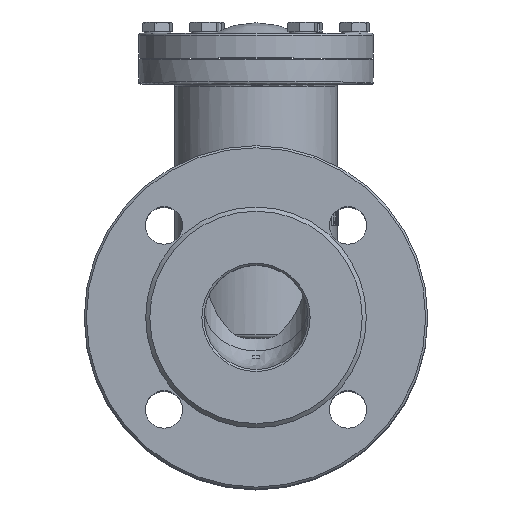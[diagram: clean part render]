
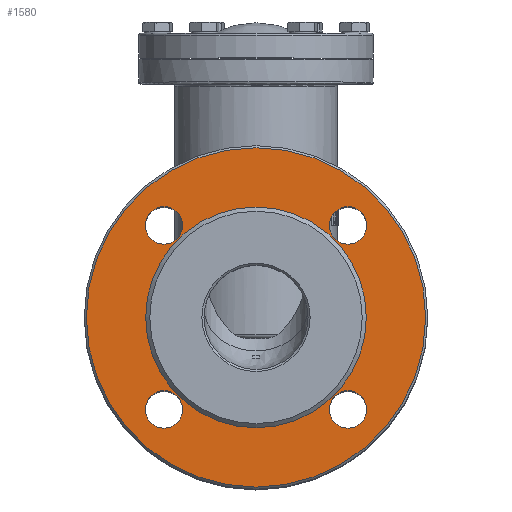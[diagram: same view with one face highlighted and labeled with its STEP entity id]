
A CAD part, top view. The second image highlights one B-rep face of the part: STEP entity #1580.
In plain terms, the highlighted planar face has unit normal (0, 0, 1).
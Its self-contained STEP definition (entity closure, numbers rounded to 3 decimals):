
#1580=ADVANCED_FACE('',(#5663,#5665,#5667,#5669,#5671,#5673),#5675,.T.);
#5663=FACE_BOUND('',#5664,.T.);
#5664=EDGE_LOOP('',(#7699));
#5665=FACE_BOUND('',#5666,.T.);
#5666=EDGE_LOOP('',(#7700));
#5667=FACE_BOUND('',#5668,.T.);
#5668=EDGE_LOOP('',(#7701));
#5669=FACE_BOUND('',#5670,.T.);
#5670=EDGE_LOOP('',(#7702));
#5671=FACE_BOUND('',#5672,.T.);
#5672=EDGE_LOOP('',(#7703));
#5673=FACE_BOUND('',#5674,.T.);
#5674=EDGE_LOOP('',(#7704));
#5675=PLANE('',#5676);
#5676=AXIS2_PLACEMENT_3D('',#5677,#5678,#5679);
#5677=CARTESIAN_POINT('',(0.,0.,110.755));
#5678=DIRECTION('',(0.,0.,1.));
#5679=DIRECTION('',(1.,0.,0.));
#7699=ORIENTED_EDGE('',*,*,#8735,.F.);
#7700=ORIENTED_EDGE('',*,*,#8736,.F.);
#7701=ORIENTED_EDGE('',*,*,#8725,.T.);
#7702=ORIENTED_EDGE('',*,*,#8726,.T.);
#7703=ORIENTED_EDGE('',*,*,#8727,.T.);
#7704=ORIENTED_EDGE('',*,*,#8728,.T.);
#8725=EDGE_CURVE('',#9752,#9752,#9753,.T.);
#8726=EDGE_CURVE('',#9754,#9754,#9755,.T.);
#8727=EDGE_CURVE('',#9756,#9756,#9757,.T.);
#8728=EDGE_CURVE('',#9758,#9758,#9759,.T.);
#8735=EDGE_CURVE('',#9772,#9772,#9773,.T.);
#8736=EDGE_CURVE('',#9774,#9774,#9775,.T.);
#9752=VERTEX_POINT('',#17388);
#9753=CIRCLE('',#17389,9.);
#9754=VERTEX_POINT('',#17393);
#9755=CIRCLE('',#17394,9.);
#9756=VERTEX_POINT('',#17398);
#9757=CIRCLE('',#17399,9.);
#9758=VERTEX_POINT('',#17403);
#9759=CIRCLE('',#17404,9.);
#9772=VERTEX_POINT('',#17438);
#9773=CIRCLE('',#17439,81.5);
#9774=VERTEX_POINT('',#17443);
#9775=CIRCLE('',#17444,53.);
#17388=CARTESIAN_POINT('',(53.194,44.194,110.755));
#17389=AXIS2_PLACEMENT_3D('',#17390,#17391,#17392);
#17390=CARTESIAN_POINT('',(44.194,44.194,110.755));
#17391=DIRECTION('',(0.,0.,-1.));
#17392=DIRECTION('',(1.,0.,0.));
#17393=CARTESIAN_POINT('',(-35.194,44.194,110.755));
#17394=AXIS2_PLACEMENT_3D('',#17395,#17396,#17397);
#17395=CARTESIAN_POINT('',(-44.194,44.194,110.755));
#17396=DIRECTION('',(0.,0.,-1.));
#17397=DIRECTION('',(1.,0.,0.));
#17398=CARTESIAN_POINT('',(-35.194,-44.194,110.755));
#17399=AXIS2_PLACEMENT_3D('',#17400,#17401,#17402);
#17400=CARTESIAN_POINT('',(-44.194,-44.194,110.755));
#17401=DIRECTION('',(0.,0.,-1.));
#17402=DIRECTION('',(1.,0.,0.));
#17403=CARTESIAN_POINT('',(53.194,-44.194,110.755));
#17404=AXIS2_PLACEMENT_3D('',#17405,#17406,#17407);
#17405=CARTESIAN_POINT('',(44.194,-44.194,110.755));
#17406=DIRECTION('',(0.,0.,-1.));
#17407=DIRECTION('',(1.,0.,0.));
#17438=CARTESIAN_POINT('',(81.5,0.,110.755));
#17439=AXIS2_PLACEMENT_3D('',#17440,#17441,#17442);
#17440=CARTESIAN_POINT('',(0.,0.,110.755));
#17441=DIRECTION('',(0.,0.,-1.));
#17442=DIRECTION('',(1.,0.,0.));
#17443=CARTESIAN_POINT('',(53.,0.,110.755));
#17444=AXIS2_PLACEMENT_3D('',#17445,#17446,#17447);
#17445=CARTESIAN_POINT('',(0.,0.,110.755));
#17446=DIRECTION('',(0.,0.,1.));
#17447=DIRECTION('',(1.,0.,0.));
